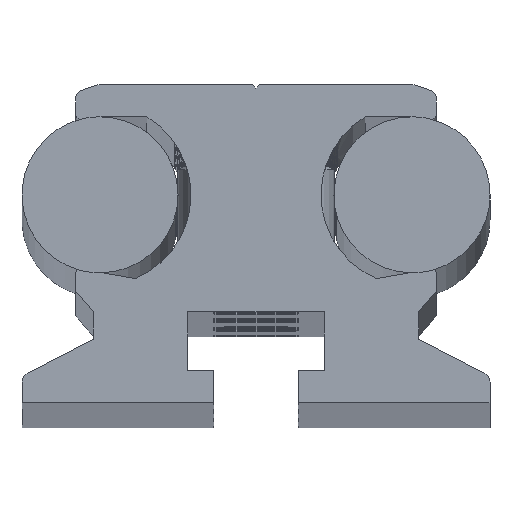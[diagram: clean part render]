
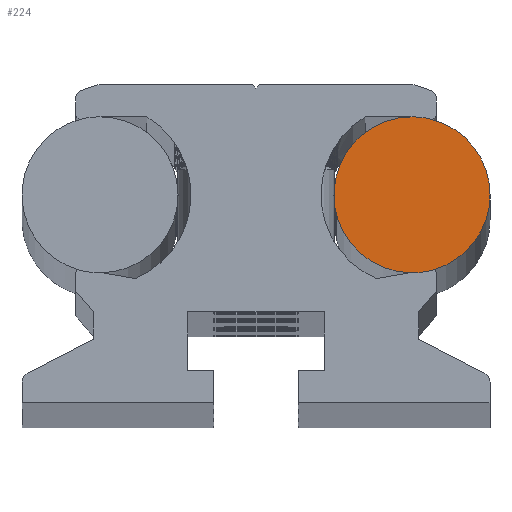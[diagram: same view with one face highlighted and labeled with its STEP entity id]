
A CAD part, top view. The second image highlights one B-rep face of the part: STEP entity #224.
In plain terms, the highlighted planar face has unit normal (0, 0, 1).
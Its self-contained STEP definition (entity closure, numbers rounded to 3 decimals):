
#224 = ADVANCED_FACE ( 'NONE', ( #11107 ), #21422, .T. ) ;
#3408 = CIRCLE ( 'NONE', #18220, 6. ) ;
#3418 = CIRCLE ( 'NONE', #18223, 6. ) ;
#4517 = CARTESIAN_POINT ( 'NONE',  ( 12., 16., -0.5 ) ) ;
#4524 = DIRECTION ( 'NONE',  ( 0., 0., 1. ) ) ;
#4525 = DIRECTION ( 'NONE',  ( 1., 0., 0. ) ) ;
#4526 = CARTESIAN_POINT ( 'NONE',  ( 12., 16., -0.5 ) ) ;
#4533 = DIRECTION ( 'NONE',  ( 0., 0., 1. ) ) ;
#4534 = DIRECTION ( 'NONE',  ( 1., 0., 0. ) ) ;
#5505 = CARTESIAN_POINT ( 'NONE',  ( 12., 16., -0.5 ) ) ;
#5512 = DIRECTION ( 'NONE',  ( 0., 0., -1. ) ) ;
#5513 = DIRECTION ( 'NONE',  ( 1., 0., 0. ) ) ;
#10019 = CARTESIAN_POINT ( 'NONE',  ( 13.516, 21.805, -0.5 ) ) ;
#10042 = CARTESIAN_POINT ( 'NONE',  ( 12., 22., -0.5 ) ) ;
#10470 = CARTESIAN_POINT ( 'NONE',  ( 18., 16., -0.5 ) ) ;
#11034 = CARTESIAN_POINT ( 'NONE',  ( 13.719, 10.251, -0.5 ) ) ;
#11107 = FACE_OUTER_BOUND ( 'NONE', #14398, .T. ) ;
#11212 = CARTESIAN_POINT ( 'NONE',  ( 11.819, 10.003, -0.5 ) ) ;
#12504 = VERTEX_POINT ( 'NONE', #10019 ) ;
#12527 = VERTEX_POINT ( 'NONE', #10042 ) ;
#12990 = VERTEX_POINT ( 'NONE', #10470 ) ;
#13298 = CIRCLE ( 'NONE', #18074, 6. ) ;
#13824 = VERTEX_POINT ( 'NONE', #11034 ) ;
#13992 = VERTEX_POINT ( 'NONE', #11212 ) ;
#14398 = EDGE_LOOP ( 'NONE', ( #18948, #18949, #18950, #18951, #18952 ) ) ;
#14410 = CIRCLE ( 'NONE', #18124, 6. ) ;
#14450 = CIRCLE ( 'NONE', #18130, 6. ) ;
#16376 = CARTESIAN_POINT ( 'NONE',  ( 12., 16., -0.5 ) ) ;
#16377 = DIRECTION ( 'NONE',  ( 0., 0., 1. ) ) ;
#16378 = DIRECTION ( 'NONE',  ( 1., 0., 0. ) ) ;
#16400 = CARTESIAN_POINT ( 'NONE',  ( 12., 16., -0.5 ) ) ;
#16410 = DIRECTION ( 'NONE',  ( 0., 0., -1. ) ) ;
#16411 = DIRECTION ( 'NONE',  ( 1., 0., 0. ) ) ;
#17603 = AXIS2_PLACEMENT_3D ( 'NONE', #21428, #21419, #21418 ) ;
#18074 = AXIS2_PLACEMENT_3D ( 'NONE', #5505, #5512, #5513 ) ;
#18124 = AXIS2_PLACEMENT_3D ( 'NONE', #16376, #16377, #16378 ) ;
#18130 = AXIS2_PLACEMENT_3D ( 'NONE', #16400, #16410, #16411 ) ;
#18220 = AXIS2_PLACEMENT_3D ( 'NONE', #4517, #4524, #4525 ) ;
#18223 = AXIS2_PLACEMENT_3D ( 'NONE', #4526, #4533, #4534 ) ;
#18948 = ORIENTED_EDGE ( 'NONE', *, *, #20958, .T. ) ;
#18949 = ORIENTED_EDGE ( 'NONE', *, *, #20654, .T. ) ;
#18950 = ORIENTED_EDGE ( 'NONE', *, *, #20963, .T. ) ;
#18951 = ORIENTED_EDGE ( 'NONE', *, *, #20196, .F. ) ;
#18952 = ORIENTED_EDGE ( 'NONE', *, *, #20671, .F. ) ;
#20196 = EDGE_CURVE ( 'NONE', #12990, #13824, #13298, .T. ) ;
#20654 = EDGE_CURVE ( 'NONE', #12527, #13992, #14410, .T. ) ;
#20671 = EDGE_CURVE ( 'NONE', #12504, #12990, #14450, .T. ) ;
#20958 = EDGE_CURVE ( 'NONE', #12504, #12527, #3408, .T. ) ;
#20963 = EDGE_CURVE ( 'NONE', #13992, #13824, #3418, .T. ) ;
#21418 = DIRECTION ( 'NONE',  ( 1., 0., 0. ) ) ;
#21419 = DIRECTION ( 'NONE',  ( 0., 0., 1. ) ) ;
#21422 = PLANE ( 'NONE',  #17603 ) ;
#21428 = CARTESIAN_POINT ( 'NONE',  ( 12., 16., -0.5 ) ) ;
